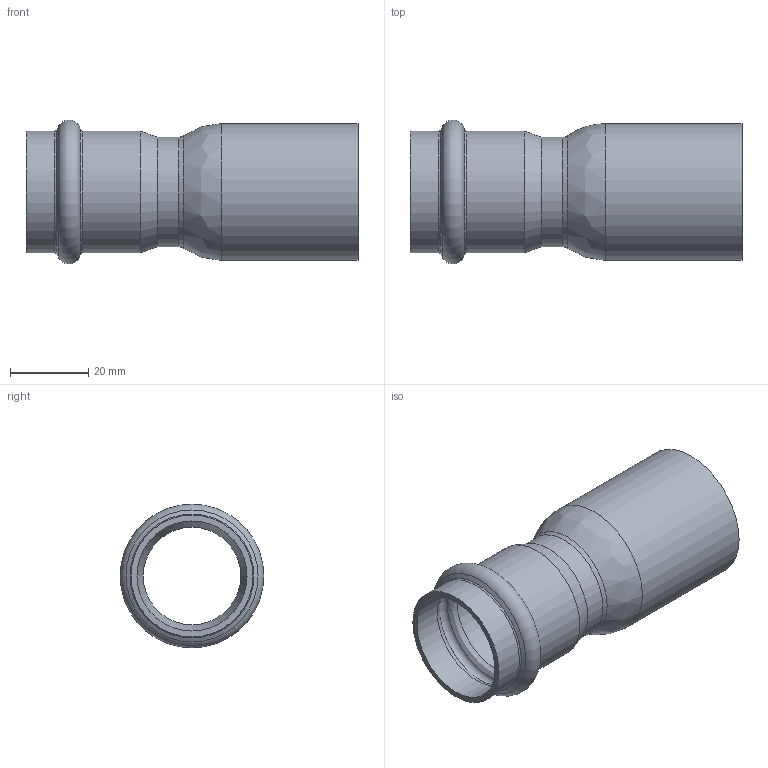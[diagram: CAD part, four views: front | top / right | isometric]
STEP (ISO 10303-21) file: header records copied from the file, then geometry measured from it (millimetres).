
FILE_DESCRIPTION((''),'2;1');
FILE_NAME('G:\Technics\CAD\Bauteile\035\692433528(1).stp','2008-03-03T10:13:48',('herberg'),(''),'Autodesk Inventor 2008','Autodesk Inventor 2008','');
FILE_SCHEMA(('AUTOMOTIVE_DESIGN { 1 0 10303 214 1 1 1 1 }'));
Length unit declared in the file: millimetre
Products named in the file (1): 692433528(1)
Bounding box: 85 x 36.79 x 36.79 mm (x, y, z)
Volume: 13108.2 mm3; surface area: 17774.5 mm2
Topology: 1 solids, 1 shells, 24 faces, 50 edges, 28 vertices
Faces by surface type: bspline 8, cylinder 8, cone 4, torus 2, plane 2
Full cylindrical faces by diameter (mm): 25 x1, 28 x1, 28.2 x2, 31.2 x2, 32 x1, 35 x1
Entity records: 798 total; most frequent: CARTESIAN_POINT 389, DIRECTION 82, ORIENTED_EDGE 48, EDGE_LOOP 48, AXIS2_PLACEMENT_3D 41, VERTEX_POINT 24, CIRCLE 24, EDGE_CURVE 24
